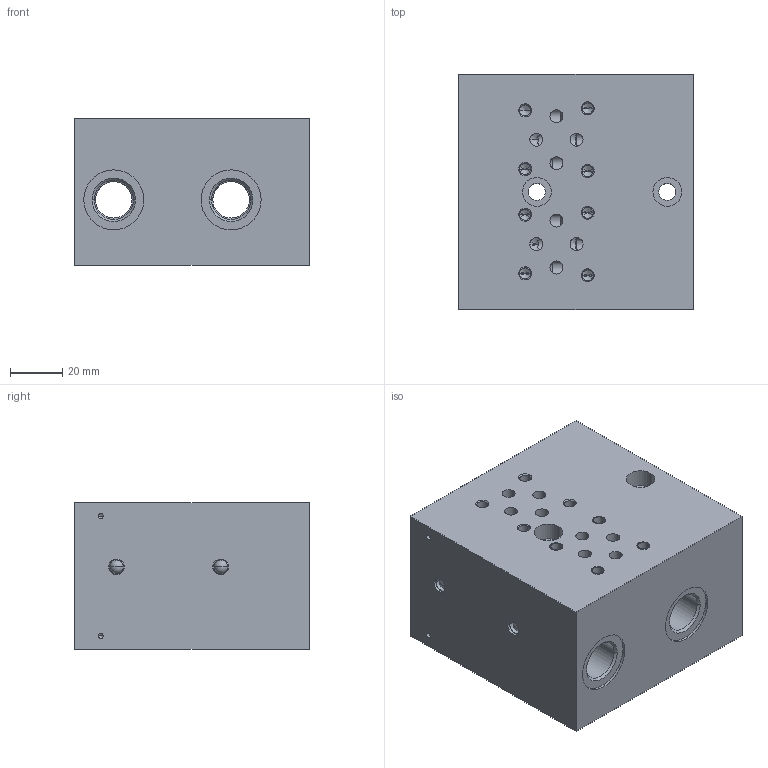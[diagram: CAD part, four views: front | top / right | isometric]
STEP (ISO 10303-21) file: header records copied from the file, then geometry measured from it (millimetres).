
FILE_DESCRIPTION((''),'2;1');
FILE_NAME('16105800_ASM','2018-10-17T',('l.soukupova'),(''),'PRO/ENGINEER BY PARAMETRIC TECHNOLOGY CORPORATION, 2015440','PRO/ENGINEER BY PARAMETRIC TECHNOLOGY CORPORATION, 2015440','');
FILE_SCHEMA(('AUTOMOTIVE_DESIGN { 1 0 10303 214 1 1 1 1 }'));
Length unit declared in the file: millimetre
Products named in the file (3): 760_2920; MB850_060E; 16105800_ASM
Assembly tree (5 placements, depth 2):
  16105800_ASM
    760_2920
    MB850_060E  x4
Bounding box: 90 x 90 x 56 mm (x, y, z)
Volume: 394008.5 mm3; surface area: 67717.5 mm2
Topology: 5 solids, 24 shells, 434 faces, 1242 edges, 913 vertices
Faces by surface type: cone 199, cylinder 184, plane 43, sphere 8
Entity records: 16258 total; most frequent: CARTESIAN_POINT 3806, DIRECTION 1983, ORIENTED_EDGE 1508, PRESENTATION_STYLE_ASSIGNMENT 1058, STYLED_ITEM 1050, CURVE_STYLE 1029, EDGE_CURVE 792, AXIS2_PLACEMENT_3D 749
